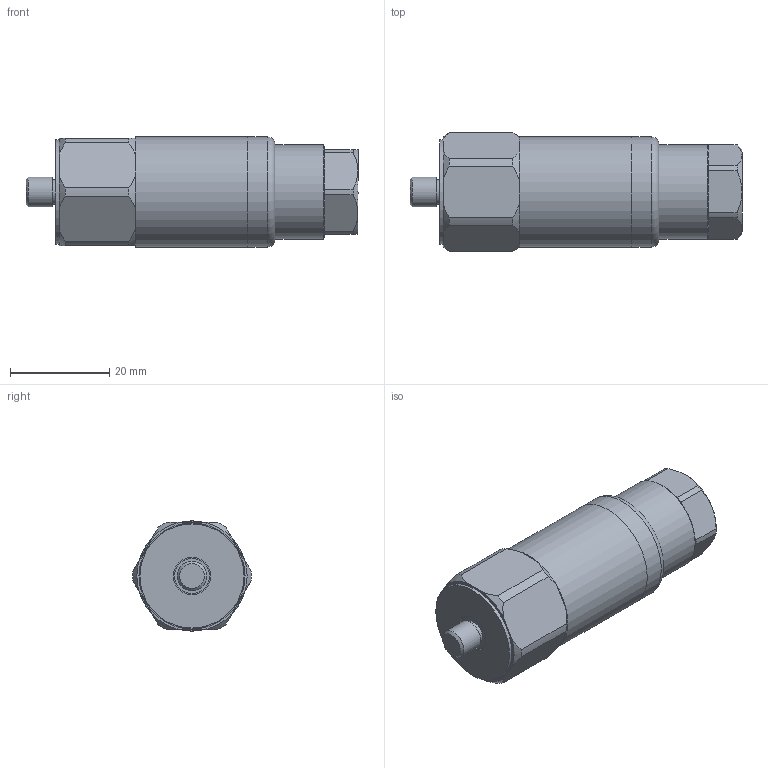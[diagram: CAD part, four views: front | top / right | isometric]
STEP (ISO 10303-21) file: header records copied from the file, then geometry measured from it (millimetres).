
FILE_DESCRIPTION(/* description */ (''),/* implementation_level */ '2;1');
FILE_NAME(/* name */ 'Z:\Engineering\Drawings\3D Library\Assemblies\Website\Premium Top\HS-150 Top Silicon\HS-150XXX0706.stp',/* time_stamp */ '2023-03-12T11:29:08+00:00',/* author */ ('Ricardo.Peneda'),/* organization */ (''),/* preprocessor_version */ 'ST-DEVELOPER v18.1',/* originating_system */ 'Autodesk Inventor 2021',/* authorisation */ '');
FILE_SCHEMA (('AUTOMOTIVE_DESIGN { 1 0 10303 214 3 1 1 }'));
Products named in the file (5): HS-150XXX0706; M02-134-A (HS-150 1.4-28UNF); M05-003-B-1 Cable Gland & Cap; M05-003-B-2 Cable Gland & Cap; M01-082-B 1.4-28UNF to M6 Male stud with slots
Assembly tree (4 placements, depth 2):
  HS-150XXX0706
    M02-134-A (HS-150 1.4-28UNF)
    M05-003-B-1 Cable Gland & Cap
    M05-003-B-2 Cable Gland & Cap
    M01-082-B 1.4-28UNF to M6 Male stud with slots
Bounding box: 66.95 x 23.99 x 22.2 mm (x, y, z)
Volume: 13863 mm3; surface area: 8869 mm2
Topology: 4 solids, 4 shells, 95 faces, 243 edges, 172 vertices
Faces by surface type: plane 42, cylinder 33, cone 19, torus 1
Full cylindrical faces by diameter (mm): 5 x2, 5.359 x1, 6 x1, 6.35 x1, 7 x1, 7.5 x1, 9 x1, 12 x2, 14 x1, 15 x2, 15.055 x1, 18 x1, 19 x1, 19.95 x1, 20 x1, 21 x1, 22.2 x2
Entity records: 3143 total; most frequent: CARTESIAN_POINT 590, DIRECTION 550, ORIENTED_EDGE 484, EDGE_CURVE 242, AXIS2_PLACEMENT_3D 240, VERTEX_POINT 172, CIRCLE 136, EDGE_LOOP 116
